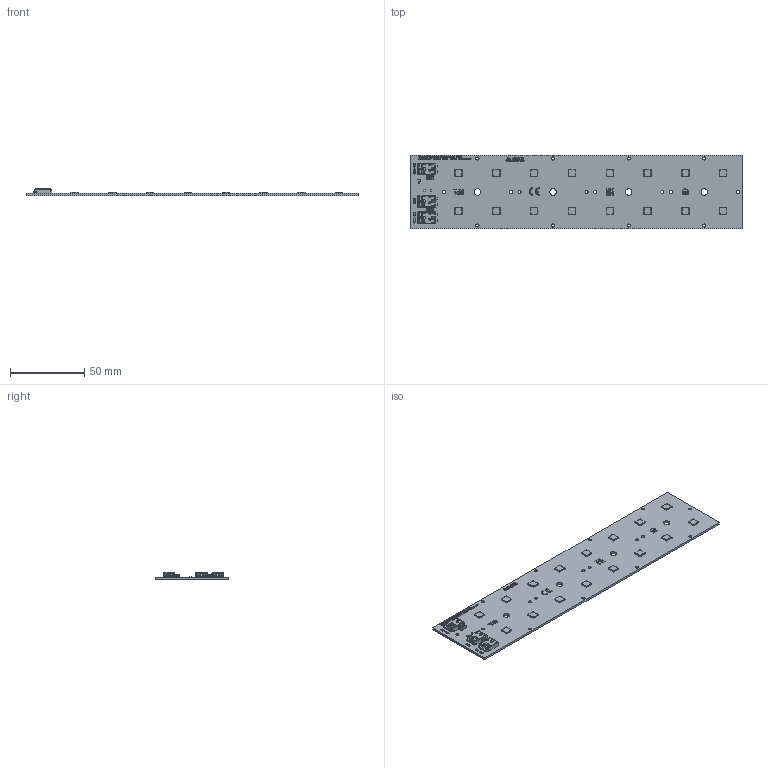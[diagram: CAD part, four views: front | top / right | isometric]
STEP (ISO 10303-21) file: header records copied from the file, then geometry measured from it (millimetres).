
FILE_DESCRIPTION(('Creo Elements/Direct Modeling STEP Export'),'2;1');
FILE_NAME('3D-Model_MSP SC 2R_Z15_5050 T_16.stp','2025-08-06T 8:47:09',(''),(''),'PTC Creo Elements/Direct Modeling STEP processor for AP214 (Solid Model)','PTC Creo Elements/Direct Modeling 19.0E 27-Jun-2016 (C) Parametric Technology GmbH','');
FILE_SCHEMA(('AUTOMOTIVE_DESIGN { 1 0 10303 214 1 1 1 1 }'));
Length unit declared in the file: millimetre
Products named in the file (137): SMA__DO-214AC_.prt.1; SMA__DO-214AC_.STEP; Plate_Print_WU-M-630-L-16-TW.64; Plate_Print_WU-M-630-L-16-TW.57; Plate_Print_WU-M-630-L-16-TW.61; Plate_Print_WU-M-630-L-16-TW.65; Plate_Print_WU-M-630-L-16-TW.62; Plate_Print_WU-M-630-L-16-TW.60; Plate_Print_WU-M-630-L-16-TW.66; Plate_Print_WU-M-630-L-16-TW.67; Plate_Print_WU-M-630-L-16-TW.63; Plate_Print_WU-M-630-L-16-TW.58; Plate_Print_WU-M-630-L-16-TW.59; Plate_Print_WU-M-630-L-16-TW.76; Plate_Print_WU-M-630-L-16-TW.75; Plate_Print_WU-M-630-L-16-TW.69; Plate_Print_WU-M-630-L-16-TW.78; Plate_Print_WU-M-630-L-16-TW.77; Plate_Print_WU-M-630-L-16-TW.73; Plate_Print_WU-M-630-L-16-TW.72; Plate_Print_WU-M-630-L-16-TW.71; Plate_Print_WU-M-630-L-16-TW.70; Plate_Print_WU-M-630-L-16-TW.74; Plate_Print_WU-M-630-L-16-TW.68; Plate_Print_WU-M-630-L-16-TW.53; Plate_Print_WU-M-630-L-16-TW.46; Plate_Print_WU-M-630-L-16-TW.56; Plate_Print_WU-M-630-L-16-TW.47; Plate_Print_WU-M-630-L-16-TW.50; Plate_Print_WU-M-630-L-16-TW.54; Plate_Print_WU-M-630-L-16-TW.49; Plate_Print_WU-M-630-L-16-TW.48; Plate_Print_WU-M-630-L-16-TW.51; Plate_Print_WU-M-630-L-16-TW.55; Plate_Print_WU-M-630-L-16-TW.52; Plate_Print_WU-M-630-L-16-TW.98; Plate_Print_WU-M-630-L-16-TW.96; Plate_Print_WU-M-630-L-16-TW.94; Plate_Print_WU-M-630-L-16-TW.92; Plate_Print_WU-M-630-L-16-TW.100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
Assembly tree (146 placements, depth 3):
  SMA__DO-214AC_.STEP
    SMA__DO-214AC_.prt.1  x2
  Print_on_Plate
    Plate_Print_WU-M-630-L-16-TW.35
    Plate_Print_WU-M-630-L-16-TW.36
    Plate_Print_WU-M-630-L-16-TW.27
    Plate_Print_WU-M-630-L-16-TW.26
    Plate_Print_WU-M-630-L-16-TW.30
    Plate_Print_WU-M-630-L-16-TW.34
    Plate_Print_WU-M-630-L-16-TW.32
    Plate_Print_WU-M-630-L-16-TW.33
    Plate_Print_WU-M-630-L-16-TW.29
    Plate_Print_WU-M-630-L-16-TW.28
    Plate_Print_WU-M-630-L-16-TW.31
    Plate_Print_WU-M-630-L-16-TW.3
    Plate_Print_WU-M-630-L-16-TW.1
    Plate_Print_WU-M-630-L-16-TW
    Plate_Print_WU-M-630-L-16-TW.2
    Plate_Print_WU-M-630-L-16-TW.6
    Plate_Print_WU-M-630-L-16-TW.4
    Plate_Print_WU-M-630-L-16-TW.8
    Plate_Print_WU-M-630-L-16-TW.14
    Plate_Print_WU-M-630-L-16-TW.10
    Plate_Print_WU-M-630-L-16-TW.12
    Plate_Print_WU-M-630-L-16-TW.13
    Plate_Print_WU-M-630-L-16-TW.7
    Plate_Print_WU-M-630-L-16-TW.11
    Plate_Print_WU-M-630-L-16-TW.5
    Plate_Print_WU-M-630-L-16-TW.9
    Plate_Print_WU-M-630-L-16-TW.118
    Plate_Print_WU-M-630-L-16-TW.115
    Plate_Print_WU-M-630-L-16-TW.114
    Plate_Print_WU-M-630-L-16-TW.117
    Plate_Print_WU-M-630-L-16-TW.105
    Plate_Print_WU-M-630-L-16-TW.106
    Plate_Print_WU-M-630-L-16-TW.107
    Plate_Print_WU-M-630-L-16-TW.102
    Plate_Print_WU-M-630-L-16-TW.113
    Plate_Print_WU-M-630-L-16-TW.104
    Plate_Print_WU-M-630-L-16-TW.103
    Plate_Print_WU-M-630-L-16-TW.109
    Plate_Print_WU-M-630-L-16-TW.120
    Plate_Print_WU-M-630-L-16-TW.110
    Plate_Print_WU-M-630-L-16-TW.116
    Plate_Print_WU-M-630-L-16-TW.119
    Plate_Print_WU-M-630-L-16-TW.101
    Plate_Print_WU-M-630-L-16-TW.108
    Plate_Print_WU-M-630-L-16-TW.111
    Plate_Print_WU-M-630-L-16-TW.112
    Plate_Print_WU-M-630-L-16-TW.85
    Plate_Print_WU-M-630-L-16-TW.84
    Plate_Print_WU-M-630-L-16-TW.82
    Plate_Print_WU-M-630-L-16-TW.83
    Plate_Print_WU-M-630-L-16-TW.86
    Plate_Print_WU-M-630-L-16-TW.81
    Plate_Print_WU-M-630-L-16-TW.79
    Plate_Print_WU-M-630-L-16-TW.89
    Plate_Print_WU-M-630-L-16-TW.87
    Plate_Print_WU-M-630-L-16-TW.88
    Plate_Print_WU-M-630-L-16-TW.80
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Bounding box: 223 x 49.5 x 4.95 mm (x, y, z)
Volume: 16733 mm3; surface area: 25381.6 mm2
Topology: 142 solids, 145 shells, 5509 faces, 14435 edges, 9426 vertices
Faces by surface type: plane 3716, cylinder 1188, bspline 297, extrusion 110, cone 90, sphere 60, torus 48
Entity records: 169818 total; most frequent: CARTESIAN_POINT 34001, ORIENTED_EDGE 21096, DIRECTION 19702, EDGE_CURVE 10550, VECTOR 7840, LINE 7785, VERTEX_POINT 6915, AXIS2_PLACEMENT_3D 5931
